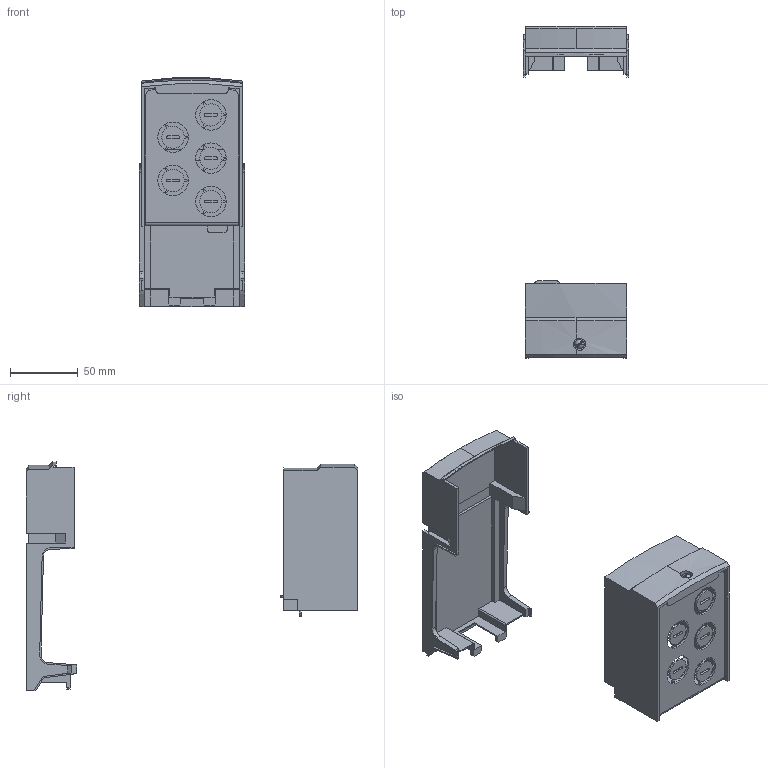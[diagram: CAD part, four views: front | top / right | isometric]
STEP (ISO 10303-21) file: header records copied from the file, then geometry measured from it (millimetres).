
FILE_DESCRIPTION (( 'STEP AP214' ), '1' );
FILE_NAME ('3D 斁麧錪 庉1-2.STEP', '2016-05-19T07:54:56', ( '' ), ( '' ), 'SwSTEP 2.0', 'SolidWorks 2014', '' );
FILE_SCHEMA (( 'AUTOMOTIVE_DESIGN' ));
Length unit declared in the file: millimetre
Products named in the file (5): 鎔艜 襞旂 17473_M4x10; ﾊﾎ1-2 湜跫_1; ﾊﾎ1-2 湜跫; ÊÎ1-2 âåðõíÿÿ; 3D 斁麧錪 庉1-2
Assembly tree (4 placements, depth 2):
  3D 斁麧錪 庉1-2
    ÊÎ1-2 âåðõíÿÿ
    ﾊﾎ1-2 湜跫
    ﾊﾎ1-2 湜跫_1
    鎔艜 襞旂 17473_M4x10
Bounding box: 78 x 245.45 x 169.47 mm (x, y, z)
Volume: 99683.8 mm3; surface area: 104552.5 mm2
Topology: 6 solids, 6 shells, 365 faces, 1026 edges, 676 vertices
Faces by surface type: plane 236, cylinder 114, cone 11, torus 2, sphere 2
Entity records: 12189 total; most frequent: CARTESIAN_POINT 2249, ORIENTED_EDGE 2052, DIRECTION 1991, EDGE_CURVE 1026, VECTOR 755, LINE 755, VERTEX_POINT 676, AXIS2_PLACEMENT_3D 618
